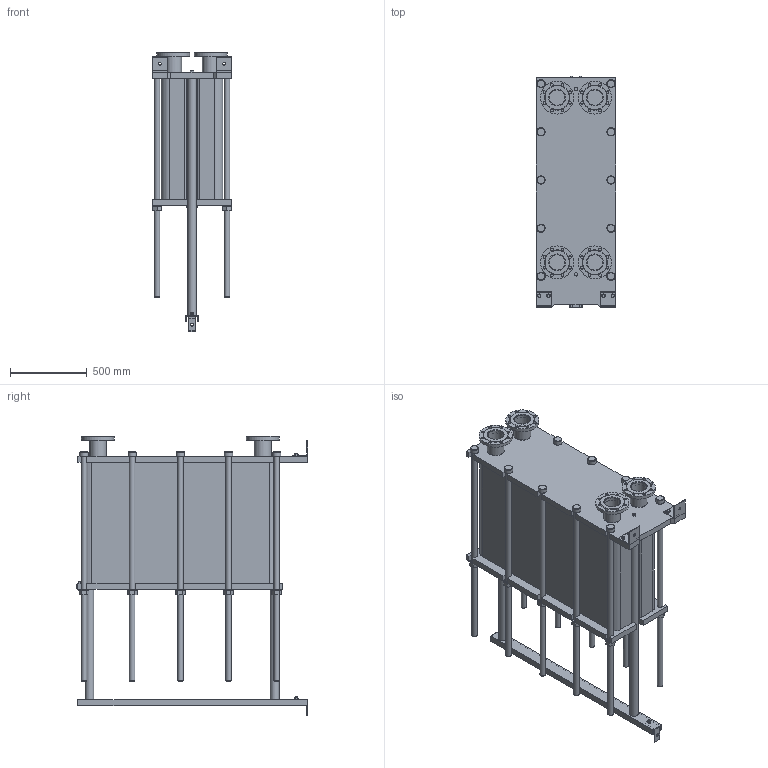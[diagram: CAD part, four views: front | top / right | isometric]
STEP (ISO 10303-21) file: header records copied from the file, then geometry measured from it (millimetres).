
FILE_DESCRIPTION(/* description */ (''),/* implementation_level */ '2;1');
FILE_NAME(/* name */ 'C:\Users\zhuro\Desktop\ENCO\TO\ЭН-04\ЭН-0,5-04-229-1.stp',/* time_stamp */ '2022-06-06T11:05:37+03:00',/* author */ ('zhuro'),/* organization */ (''),/* preprocessor_version */ 'ST-DEVELOPER v18.1',/* originating_system */ 'Autodesk Inventor 2022',/* authorisation */ '');
FILE_SCHEMA (('AUTOMOTIVE_DESIGN { 1 0 10303 214 3 1 1 }'));
Length unit declared in the file: millimetre
Products named in the file (1): ЭН-0,5-04-229-1
Bounding box: 520 x 1510 x 1824.5 mm (x, y, z)
Volume: 472982406 mm3; surface area: 11191984.1 mm2
Topology: 45 solids, 45 shells, 668 faces, 1611 edges, 1048 vertices
Faces by surface type: plane 457, cylinder 166, cone 39, torus 6
Full cylindrical faces by diameter (mm): 8 x4, 10 x2, 16 x8, 18 x35, 36 x25, 40 x2, 42 x1, 45 x4, 54 x10, 57 x2, 60 x10, 68 x2, 100 x4, 110 x8, 215 x4
Entity records: 23607 total; most frequent: CARTESIAN_POINT 7348, DIRECTION 3371, ORIENTED_EDGE 3142, EDGE_CURVE 1571, AXIS2_PLACEMENT_3D 1199, VERTEX_POINT 1044, LINE 973, VECTOR 973
